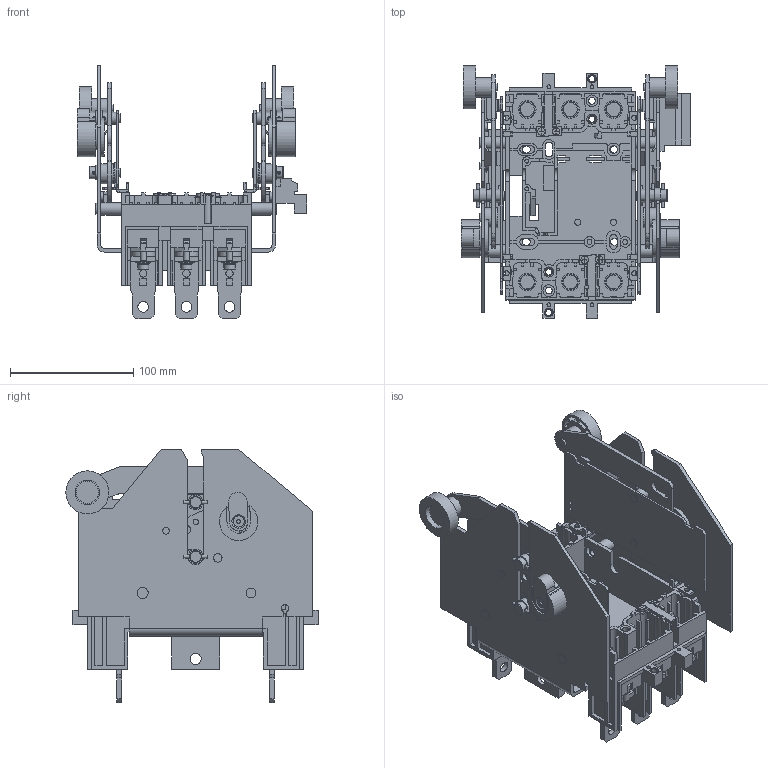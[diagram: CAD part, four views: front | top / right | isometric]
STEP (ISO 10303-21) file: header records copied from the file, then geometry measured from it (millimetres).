
FILE_DESCRIPTION(/* description */ (''),/* implementation_level */ '2;1');
FILE_NAME(/* name */ '_model1.stp',/* time_stamp */ '2025-11-13T13:44:27+08:00',/* author */ (''),/* organization */ (''),/* preprocessor_version */ 'ST-DEVELOPER v16',/* originating_system */ 'SIEMENS PLM Software NX 10.0',/* authorisation */ '');
FILE_SCHEMA (('AUTOMOTIVE_DESIGN { 1 0 10303 214 3 1 1 1 }'));
Products named in the file (1): midi22F477E9n0k5
Bounding box: 185.9 x 204.8 x 205.5 mm (x, y, z)
Volume: 623286.7 mm3; surface area: 422474.7 mm2
Topology: 1 solids, 18 shells, 2785 faces, 7709 edges, 5030 vertices
Faces by surface type: plane 2024, cylinder 657, torus 64, extrusion 18, cone 16, sphere 4, bspline 2
Full cylindrical faces by diameter (mm): 2.5 x16, 3 x10, 3.1 x4, 3.2 x2, 3.6 x4, 4 x4, 4.3 x4, 4.322 x2, 4.398 x2, 5 x10, 5.5 x4, 5.9 x2, 6 x12, 6.2 x9, 6.5 x8, 7 x2, 7.2 x4, 7.4 x2, 8 x4, 8.5 x1, 8.7 x6, 9 x16, 9.2 x2, 9.5 x8, 10 x14, 11 x2, 12 x8, 14.2 x12, 16 x8, 18 x2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
Entity records: 94739 total; most frequent: CARTESIAN_POINT 16899, ORIENTED_EDGE 14692, DIRECTION 14403, EDGE_CURVE 7346, VECTOR 5597, LINE 5579, VERTEX_POINT 4901, AXIS2_PLACEMENT_3D 4403
